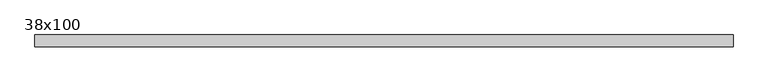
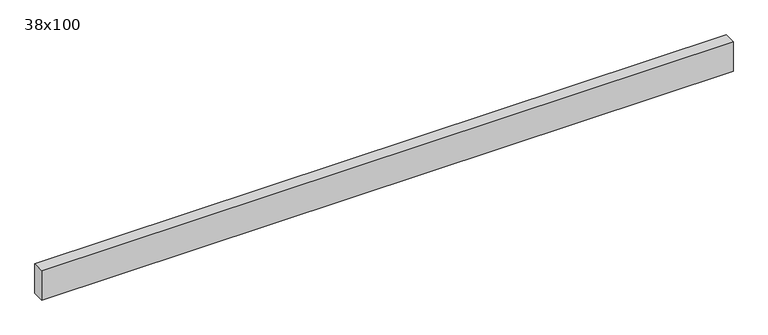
"""IFC4 building model written with IfcOpenShell, lengths in millimetres: beam geometry, Poutre - Bois de construction de dimensions courantes : 38x100."""

from ifc_helpers import new_model, si_unit, frame, origin, place, context, project, spatial, polyline, outline, extrude, source, transform, mapped, element, save


def beam_38x100_bf21dd26(model_context):
    return source(origin(), model_context, "Body", "SweptSolid", [
        extrude(outline(polyline([(1095.5, 19.05), (1095.5, -19.05), (-1130.5, -19.05), (-1130.5, 19.05), (1095.5, 19.05)])), frame((0.0, 0.0, -50.0), z_axis=(0.0, 0.0, 1.0), x_axis=(1.0, 0.0, 0.0)), (0.0, 0.0, 1.0), 100.0),
    ])


if __name__ == "__main__":
    model = new_model("IFC4")
    model_context = context("Model", 3, world=origin())
    ifc_project = project(units=[si_unit("LENGTHUNIT", "METRE", prefix="MILLI")], contexts=[model_context])
    site = spatial("IfcSite", under=ifc_project)
    building = spatial("IfcBuilding", under=site)
    placement = place(None, origin())
    beam_38x100_shape = beam_38x100_bf21dd26(model_context)
    element("IfcBeam", 1, ObjectType="Poutre - Bois de construction de dimensions courantes : 38x100", at=placement, inside=building, context=model_context, shape_type="MappedRepresentation", body=[
        mapped(beam_38x100_shape, transform((0.0, 0.0, 0.0), x_axis=(1.0, 0.0, 0.0), y_axis=(0.0, 1.0, 0.0), z_axis=(0.0, 0.0, 1.0))),
    ])
    save(model, "model.ifc")
